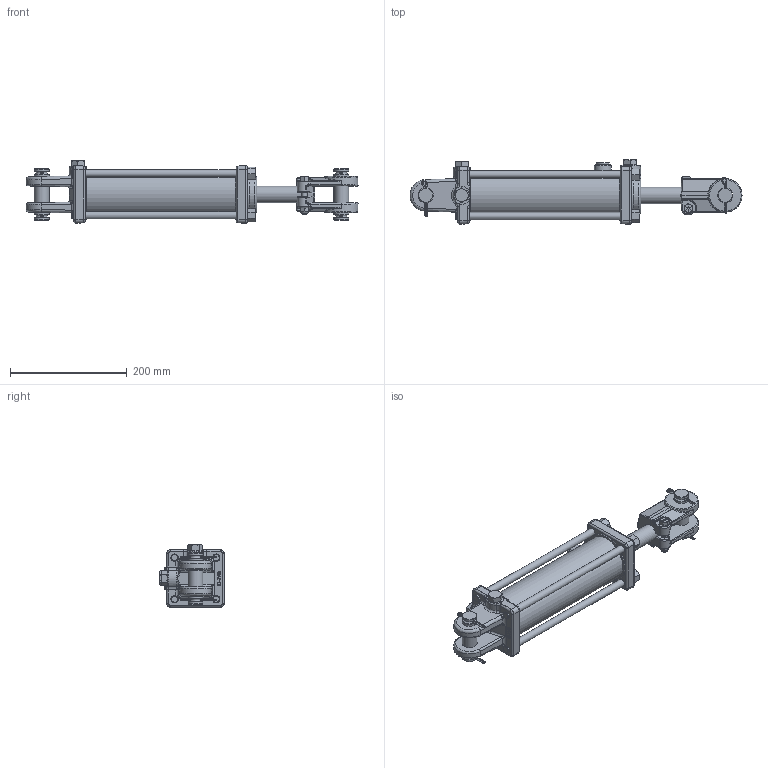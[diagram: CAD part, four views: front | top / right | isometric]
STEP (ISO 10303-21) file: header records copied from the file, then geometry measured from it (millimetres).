
FILE_DESCRIPTION((''),'2;1');
FILE_NAME('C:\Documents and Settings\NewtonB\My Documents\_Vest\090929_PMS-AM-2580\PMS-AM-2580.stp','2009-09-29T08:59:56',('newtonb'),(''),'Autodesk Inventor 2008','Autodesk Inventor 2008','');
FILE_SCHEMA(('AUTOMOTIVE_DESIGN { 1 0 10303 214 1 1 1 1 }'));
Length unit declared in the file: inch
Products named in the file (29): PMS-AM-2580V; 061400037V; 051400040V; 200300181V; 141400002V; 010500394V; 100000423V; 100000422V; 170002104V; 220000203V; 071400052V; 220000208V; 190400001V; 220001504V; 240011115V; 240064300V; 240000024V; 240061230V; 240000230V; 081400015V; 081400014V; 210500088V; 250014112V; 240020183V; 170201123AV; 170201123V; 220000105V; 200300040V; 200300104V
Assembly tree (39 placements, depth 3):
  PMS-AM-2580V
    061400037V
      051400040V
      200300181V
    141400002V
    010500394V
    100000423V
      100000422V
      170002104V
      220000203V
    071400052V
    220000208V
    190400001V  x2
    220001504V  x4
    240011115V
    240064300V
    240000024V
    240061230V  x2
    240000230V  x2
    081400015V
      081400014V
      210500088V
    250014112V
    240020183V
    170201123AV  x4
      170201123V
      220000105V
    200300040V  x3
    200300104V
Bounding box: 569.83 x 110.29 x 106.98 mm (x, y, z)
Volume: 1631487.8 mm3; surface area: 431354.5 mm2
Topology: 38 solids, 38 shells, 1131 faces, 2636 edges, 1592 vertices
Faces by surface type: plane 350, bspline 319, cylinder 253, cone 161, torus 31, sphere 17
Full cylindrical faces by diameter (mm): 1.575 x1, 2.769 x1, 5.159 x4, 9.493 x1, 10.319 x2, 12.7 x4, 16.764 x3, 18.999 x1, 19.05 x4, 19.126 x1, 22.352 x1, 25.4 x6, 25.781 x4, 28.55 x2, 28.575 x2, 28.727 x1, 29.527 x1, 30.201 x1, 31.013 x1, 31.75 x1, 32.532 x1, 32.544 x1, 33.325 x1, 34.773 x1, 35.789 x1, 37.148 x1, 37.313 x1, 37.998 x1, 41.275 x1, 41.377 x1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
Entity records: 37009 total; most frequent: CARTESIAN_POINT 16990, ORIENTED_EDGE 3962, DIRECTION 3679, EDGE_CURVE 1981, AXIS2_PLACEMENT_3D 1496, VERTEX_POINT 1284, EDGE_LOOP 1183, FACE_OUTER_BOUND 929
